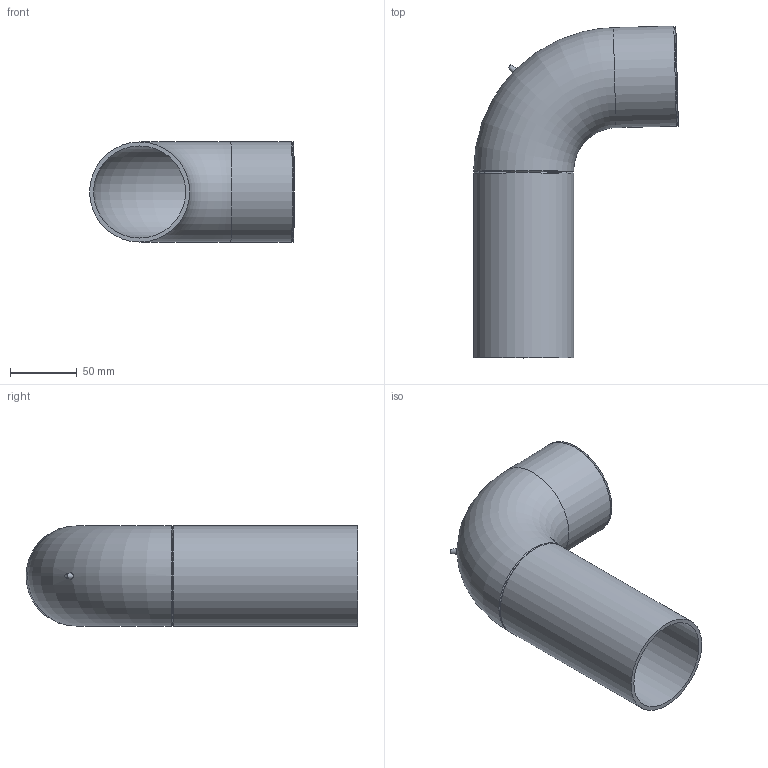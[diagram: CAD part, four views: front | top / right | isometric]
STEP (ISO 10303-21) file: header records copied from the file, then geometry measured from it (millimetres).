
FILE_DESCRIPTION(/* description */ (''),/* implementation_level */ '2;1');
FILE_NAME(/* name */ 'Z:\Geberit\Export\NewStep\365051.stp',/* time_stamp */ '2014-04-02T07:33:20+02:00',/* author */ ('nelson'),/* organization */ (''),/* preprocessor_version */ 'ST-DEVELOPER v15.2',/* originating_system */ 'Autodesk Inventor 2014',/* authorisation */ '');
FILE_SCHEMA (('AUTOMOTIVE_DESIGN { 1 0 10303 214 3 1 1 }'));
Length unit declared in the file: millimetre
Products named in the file (1): 365051
Bounding box: 153.48 x 248.71 x 75 mm (x, y, z)
Volume: 199973.7 mm3; surface area: 135144.3 mm2
Topology: 1 solids, 1 shells, 15 faces, 30 edges, 17 vertices
Faces by surface type: cone 5, cylinder 5, plane 3, torus 2
Full cylindrical faces by diameter (mm): 69 x2, 75 x3
Entity records: 363 total; most frequent: CARTESIAN_POINT 83, DIRECTION 60, EDGE_LOOP 30, ORIENTED_EDGE 30, AXIS2_PLACEMENT_3D 30, FACE_BOUND 17, VERTEX_POINT 15, EDGE_CURVE 15
